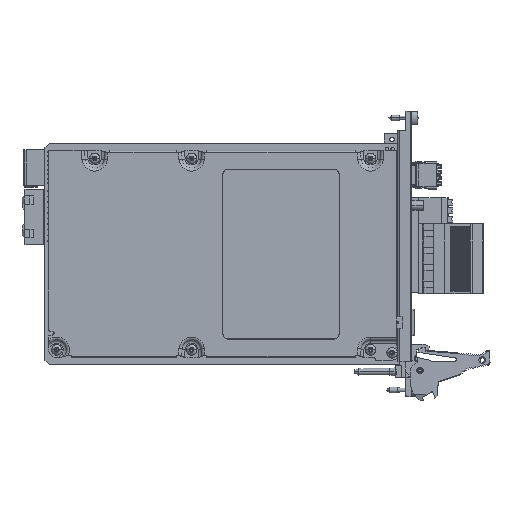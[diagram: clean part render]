
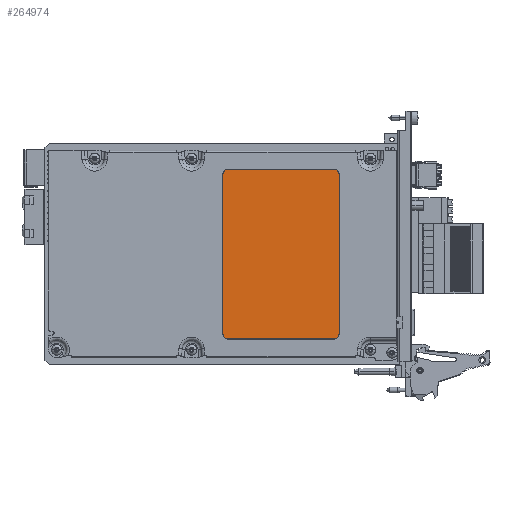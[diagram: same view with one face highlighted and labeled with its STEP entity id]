
A CAD part, front view. The second image highlights one B-rep face of the part: STEP entity #264974.
In plain terms, the highlighted planar face has unit normal (0, -1, 0).
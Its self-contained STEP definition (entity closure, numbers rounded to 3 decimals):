
#71893=CARTESIAN_POINT('',(-26.175,-3.748,-35.89));
#71894=DIRECTION('',(0.,1.,0.));
#71895=DIRECTION('',(1.,0.,0.));
#71896=AXIS2_PLACEMENT_3D('',#71893,#71894,#71895);
#71898=DIRECTION('',(-1.,0.,0.));
#71899=VECTOR('',#71898,47.65);
#71900=CARTESIAN_POINT('',(-26.175,-3.748,-38.214));
#71901=LINE('',#71900,#71899);
#71902=CARTESIAN_POINT('',(-73.825,-3.748,-35.89));
#71903=DIRECTION('',(0.,1.,0.));
#71904=DIRECTION('',(0.,0.,-1.));
#71905=AXIS2_PLACEMENT_3D('',#71902,#71903,#71904);
#71907=DIRECTION('',(0.,0.,1.));
#71908=VECTOR('',#71907,71.78);
#71909=CARTESIAN_POINT('',(-76.149,-3.748,-35.89));
#71910=LINE('',#71909,#71908);
#71911=CARTESIAN_POINT('',(-73.825,-3.748,35.89));
#71912=DIRECTION('',(0.,1.,0.));
#71913=DIRECTION('',(-1.,0.,0.));
#71914=AXIS2_PLACEMENT_3D('',#71911,#71912,#71913);
#71916=DIRECTION('',(1.,0.,0.));
#71917=VECTOR('',#71916,47.65);
#71918=CARTESIAN_POINT('',(-73.825,-3.748,38.214));
#71919=LINE('',#71918,#71917);
#71920=CARTESIAN_POINT('',(-26.175,-3.748,35.89));
#71921=DIRECTION('',(0.,1.,0.));
#71922=DIRECTION('',(0.,0.,1.));
#71923=AXIS2_PLACEMENT_3D('',#71920,#71921,#71922);
#71925=DIRECTION('',(0.,0.,-1.));
#71926=VECTOR('',#71925,71.78);
#71927=CARTESIAN_POINT('',(-23.851,-3.748,35.89));
#71928=LINE('',#71927,#71926);
#105377=CARTESIAN_POINT('',(-23.851,-3.748,-35.89));
#105378=CARTESIAN_POINT('',(-26.175,-3.748,-38.214));
#105379=VERTEX_POINT('',#105377);
#105380=VERTEX_POINT('',#105378);
#105385=CARTESIAN_POINT('',(-73.825,-3.748,-38.214));
#105386=VERTEX_POINT('',#105385);
#105389=CARTESIAN_POINT('',(-76.15,-3.748,-35.89));
#105390=VERTEX_POINT('',#105389);
#105393=CARTESIAN_POINT('',(-76.15,-3.748,35.89));
#105394=VERTEX_POINT('',#105393);
#105397=CARTESIAN_POINT('',(-73.825,-3.748,38.214));
#105398=VERTEX_POINT('',#105397);
#105401=CARTESIAN_POINT('',(-26.175,-3.748,38.214));
#105402=VERTEX_POINT('',#105401);
#105405=CARTESIAN_POINT('',(-23.851,-3.748,35.89));
#105406=VERTEX_POINT('',#105405);
#264952=CARTESIAN_POINT('',(-50.,-3.748,0.));
#264953=DIRECTION('',(0.,1.,0.));
#264954=DIRECTION('',(1.,0.,0.));
#264955=AXIS2_PLACEMENT_3D('',#264952,#264953,#264954);
#264956=PLANE('',#264955);
#264957=ORIENTED_EDGE('',*,*,#264935,.T.);
#264959=ORIENTED_EDGE('',*,*,#264958,.T.);
#264961=ORIENTED_EDGE('',*,*,#264960,.T.);
#264963=ORIENTED_EDGE('',*,*,#264962,.T.);
#264965=ORIENTED_EDGE('',*,*,#264964,.T.);
#264967=ORIENTED_EDGE('',*,*,#264966,.T.);
#264969=ORIENTED_EDGE('',*,*,#264968,.T.);
#264971=ORIENTED_EDGE('',*,*,#264970,.T.);
#264972=EDGE_LOOP('',(#264957,#264959,#264961,#264963,#264965,#264967,#264969,
#264971));
#264973=FACE_OUTER_BOUND('',#264972,.F.);
#71897=CIRCLE('',#71896,2.324);
#71906=CIRCLE('',#71905,2.324);
#71915=CIRCLE('',#71914,2.324);
#71924=CIRCLE('',#71923,2.324);
#264935=EDGE_CURVE('',#105379,#105380,#71897,.T.);
#264958=EDGE_CURVE('',#105380,#105386,#71901,.T.);
#264960=EDGE_CURVE('',#105386,#105390,#71906,.T.);
#264962=EDGE_CURVE('',#105390,#105394,#71910,.T.);
#264964=EDGE_CURVE('',#105394,#105398,#71915,.T.);
#264966=EDGE_CURVE('',#105398,#105402,#71919,.T.);
#264968=EDGE_CURVE('',#105402,#105406,#71924,.T.);
#264970=EDGE_CURVE('',#105406,#105379,#71928,.T.);
#264974=ADVANCED_FACE('',(#264973),#264956,.F.);
